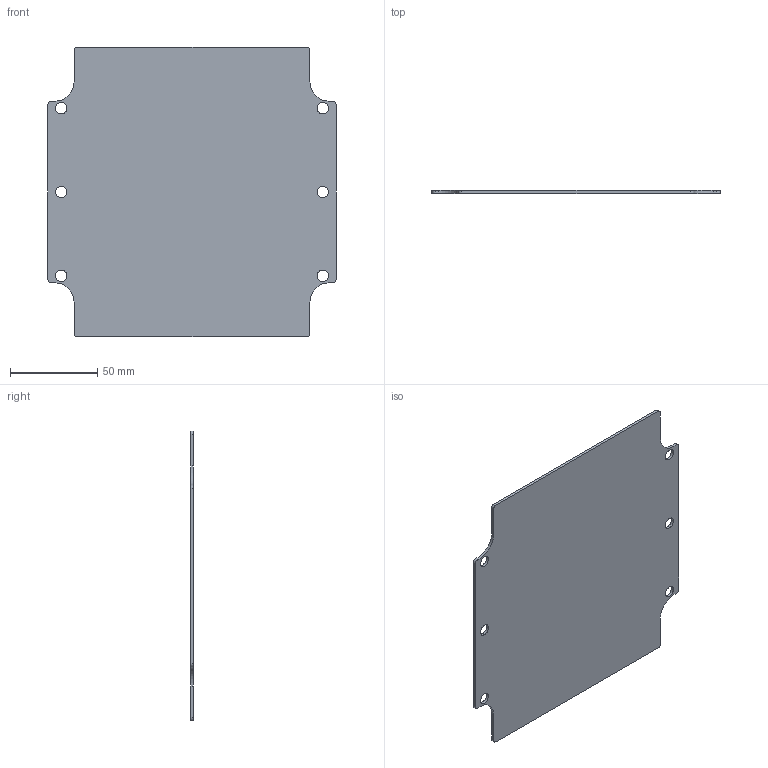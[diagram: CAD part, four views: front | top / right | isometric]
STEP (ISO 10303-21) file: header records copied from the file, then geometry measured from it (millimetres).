
FILE_DESCRIPTION(/* description */ (''),/* implementation_level */ '2;1');
FILE_NAME(/* name */ '1590Z180PL.stp',/* time_stamp */ '2024-07-18T08:24:48-04:00',/* author */ ('lwalsh'),/* organization */ (''),/* preprocessor_version */ 'ST-DEVELOPER v20',/* originating_system */ 'Autodesk Inventor 2024',/* authorisation */ '');
FILE_SCHEMA (('AUTOMOTIVE_DESIGN { 1 0 10303 214 3 1 1 }'));
Length unit declared in the file: millimetre
Products named in the file (1): 1590Z180 Panel
Bounding box: 165 x 1.6 x 166 mm (x, y, z)
Volume: 40686.8 mm3; surface area: 52067.2 mm2
Topology: 1 solids, 1 shells, 32 faces, 90 edges, 60 vertices
Faces by surface type: cylinder 18, plane 14
Full cylindrical faces by diameter (mm): 6.53 x6
Entity records: 1117 total; most frequent: DIRECTION 192, CARTESIAN_POINT 183, ORIENTED_EDGE 180, EDGE_CURVE 90, AXIS2_PLACEMENT_3D 69, VERTEX_POINT 60, LINE 54, VECTOR 54
